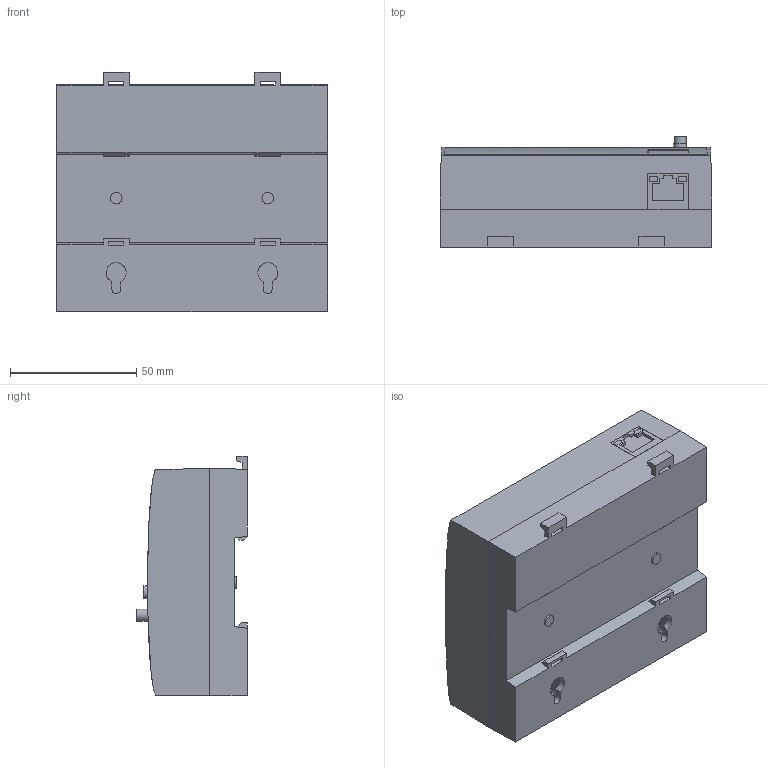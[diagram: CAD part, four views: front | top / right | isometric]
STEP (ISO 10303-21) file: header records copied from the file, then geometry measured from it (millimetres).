
FILE_DESCRIPTION(/* description */ ('STEP AP242','CAx-IF Rec.Pracs.---Representation and Presentation of Product Manufacturing Information (PMI)---4.0---2014-10-13','CAx-IF Rec.Pracs.---3D Tessellated Geometry---0.4---2014-09-14','2;1'),/* implementation_level */ '2;1');
FILE_NAME(/* name */ '6634da9f7859092b1b9c243f',/* time_stamp */ '2024-05-03T12:37:52Z',/* author */ (''),/* organization */ (''),/* preprocessor_version */ 'ST-DEVELOPER v20',/* originating_system */ ' ',/* authorisation */ ' ');
FILE_SCHEMA (('AP242_MANAGED_MODEL_BASED_3D_ENGINEERING_MIM_LF { 1 0 10303 442 1 1 4 }'));
Length unit declared in the file: metre
Products named in the file (1): RIO D4
Bounding box: 107.5 x 43.84 x 94.94 mm (x, y, z)
Volume: 350041.8 mm3; surface area: 36287.1 mm2
Topology: 1 solids, 1 shells, 380 faces, 925 edges, 612 vertices
Faces by surface type: plane 234, cylinder 89, bspline 57
Full cylindrical faces by diameter (mm): 0.544 x7, 0.705 x7, 0.866 x7, 0.99 x7, 1.485 x1, 1.8 x1, 2.3 x8, 4.6 x2, 4.8 x1, 5.1 x1, 9.9 x1, 10.782 x1
Entity records: 18685 total; most frequent: CARTESIAN_POINT 9665, ORIENTED_EDGE 1754, DIRECTION 1287, EDGE_CURVE 877, VERTEX_POINT 608, LINE 595, VECTOR 595, EDGE_LOOP 493
